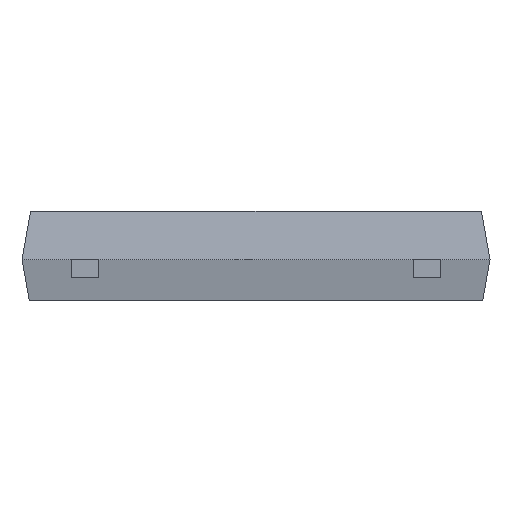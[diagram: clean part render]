
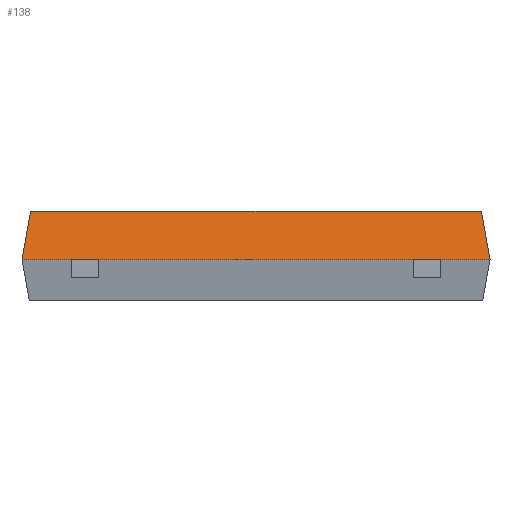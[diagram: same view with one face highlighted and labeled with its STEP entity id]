
A CAD part, front view. The second image highlights one B-rep face of the part: STEP entity #138.
In plain terms, the highlighted planar face has unit normal (0, -0.985, 0.174).
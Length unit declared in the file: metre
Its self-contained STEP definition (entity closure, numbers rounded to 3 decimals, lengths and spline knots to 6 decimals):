
#138=ADVANCED_FACE('0:7892',(#306),#307,.T.);
#306=FACE_OUTER_BOUND('',#568,.T.);
#307=PLANE('',#569);
#568=EDGE_LOOP('',(#1056,#1057,#1058,#1059));
#569=AXIS2_PLACEMENT_3D('',#1060,#1061,#1062);
#1056=ORIENTED_EDGE('',*,*,#1929,.F.);
#1057=ORIENTED_EDGE('',*,*,#1932,.T.);
#1058=ORIENTED_EDGE('',*,*,#1933,.T.);
#1059=ORIENTED_EDGE('',*,*,#1934,.T.);
#1060=CARTESIAN_POINT('',(-0.002605,-0.015355,0.));
#1061=DIRECTION('',(0.0,-0.985,0.174));
#1062=DIRECTION('',(-1.0,0.0,0.0));
#1929=EDGE_CURVE('0:8297',#2348,#2350,#2351,.T.);
#1932=EDGE_CURVE('0:8306',#2348,#2355,#2356,.T.);
#1933=EDGE_CURVE('0:8309',#2355,#2357,#2358,.T.);
#1934=EDGE_CURVE('0:8312',#2357,#2350,#2359,.T.);
#2348=VERTEX_POINT('NONE',#3018);
#2350=VERTEX_POINT('NONE',#3021);
#2351=LINE('',#3022,#3023);
#2355=VERTEX_POINT('NONE',#3029);
#2356=LINE('',#3030,#3031);
#2357=VERTEX_POINT('NONE',#3032);
#2358=LINE('',#3033,#3034);
#2359=LINE('',#3035,#3036);
#3018=CARTESIAN_POINT('',(-0.00251,-0.01526,0.00054));
#3021=CARTESIAN_POINT('',(0.00251,-0.01526,0.00054));
#3022=CARTESIAN_POINT('',(0.0,-0.01526,0.00054));
#3023=VECTOR('',#3766,1.0);
#3029=CARTESIAN_POINT('',(-0.002605,-0.015355,0.));
#3030=CARTESIAN_POINT('',(-0.00251,-0.01526,0.00054));
#3031=VECTOR('',#3769,1.0);
#3032=CARTESIAN_POINT('',(0.002605,-0.015355,0.));
#3033=CARTESIAN_POINT('',(-0.002605,-0.015355,0.));
#3034=VECTOR('',#3770,1.0);
#3035=CARTESIAN_POINT('',(0.002605,-0.015355,0.));
#3036=VECTOR('',#3771,1.0);
#3766=DIRECTION('',(1.0,0.0,0.0));
#3769=DIRECTION('',(-0.171,-0.171,-0.97));
#3770=DIRECTION('',(1.0,0.0,0.0));
#3771=DIRECTION('',(-0.171,0.171,0.97));
